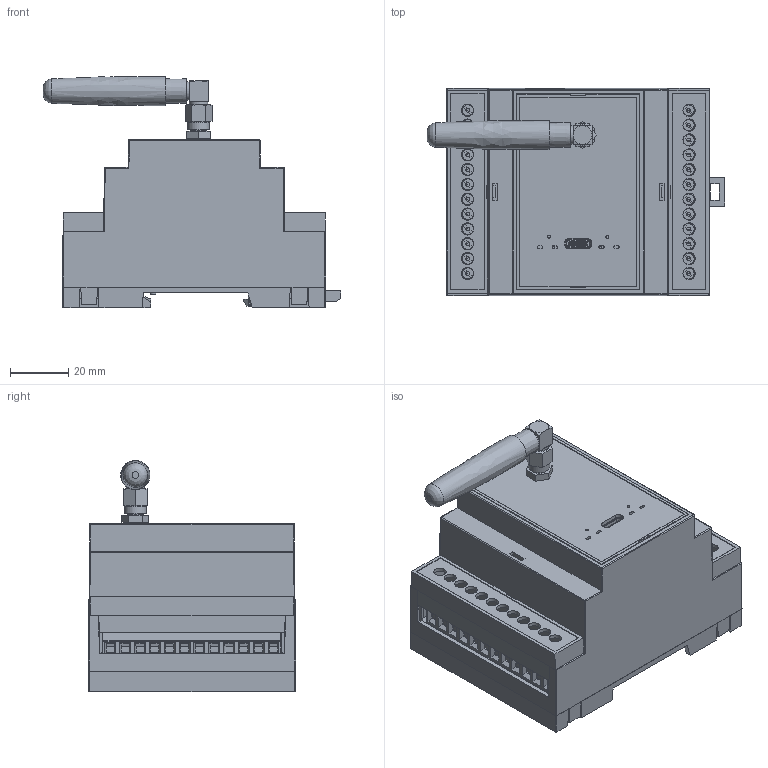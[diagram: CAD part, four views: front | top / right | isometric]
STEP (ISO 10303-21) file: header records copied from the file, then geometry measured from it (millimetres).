
FILE_DESCRIPTION(/* description */ ('','CAx-IF Rec.Pracs.---Representation and Presentation of Product Manufacturing Information (PMI)---4.0---2014-10-13'),/* implementation_level */ '2;1');
FILE_NAME(/* name */ 'EQSP32C-X - Shared CAD - Rev051925 v3.step',/* time_stamp */ '2025-05-19T15:50:27+03:00',/* author */ (''),/* organization */ (''),/* preprocessor_version */ 'ST-DEVELOPER v20',/* originating_system */ 'Autodesk Translation Framework v13.20.0.188',/* authorisation */ '');
FILE_SCHEMA (('AP242_MANAGED_MODEL_BASED_3D_ENGINEERING_MIM_LF { 1 0 10303 442 1 1 4 }'));
Products named in the file (28): EQSP32C-X - Shared CAD - Rev051925; Complete; PCIeBoard_v1.0; J1e; 5809249936; EQSP32_board_v1.0; Board; Open CASCADE STEP translator 6.8 1.1.1; J1; female_header_a-bl254-da-g10d; J2; 5857085904; mkdsn_1.5-12-5.08; J3; 5857085824; mkdsn_1.5-12-5.08 (1); Case; Base; Body; EQ Body; Cover; EQ Faceplate; Extras; DMB4770mtgclip(DMB4772); DMB4772guard1; DMB4772guard2; Antenna SMA Male 100 mm 868 MHz; SMA Nut
Assembly tree (27 placements, depth 6):
  EQSP32C-X - Shared CAD - Rev051925
    Complete
      PCIeBoard_v1.0
        J1e
          5809249936
      EQSP32_board_v1.0
        Board
          Open CASCADE STEP translator 6.8 1.1.1
        J1
          female_header_a-bl254-da-g10d
        J2
          5857085904
            mkdsn_1.5-12-5.08
        J3
          5857085824
            mkdsn_1.5-12-5.08 (1)
      Case
        Base
        Body
          EQ Body
        Cover
          EQ Faceplate
        Extras
          DMB4770mtgclip(DMB4772)
          DMB4772guard1
          DMB4772guard2
    Antenna SMA Male 100 mm 868 MHz
    SMA Nut
Bounding box: 102.02 x 71 x 79.15 mm (x, y, z)
Volume: 67094.4 mm3; surface area: 90364.1 mm2
Topology: 16 solids, 16 shells, 3105 faces, 8278 edges, 5295 vertices
Faces by surface type: plane 2371, cylinder 584, cone 96, sphere 32, bspline 12, torus 10
Full cylindrical faces by diameter (mm): 0.457 x2, 0.5 x2, 0.78 x36, 0.9 x1, 1 x4, 1.07 x10, 1.3 x48, 1.5 x4, 2.4 x2, 3.2 x4, 3.8 x24, 3.83 x24, 4.2 x24, 4.5 x1, 5.3 x2, 5.4 x1, 5.5 x1, 6.3 x1, 6.4 x1, 6.5 x1, 7.5 x1, 7.75 x1, 8 x1, 11 x1
Entity records: 99355 total; most frequent: CARTESIAN_POINT 18175, ORIENTED_EDGE 16530, DIRECTION 16085, EDGE_CURVE 8265, LINE 6485, VECTOR 6485, VERTEX_POINT 5295, AXIS2_PLACEMENT_3D 4800
